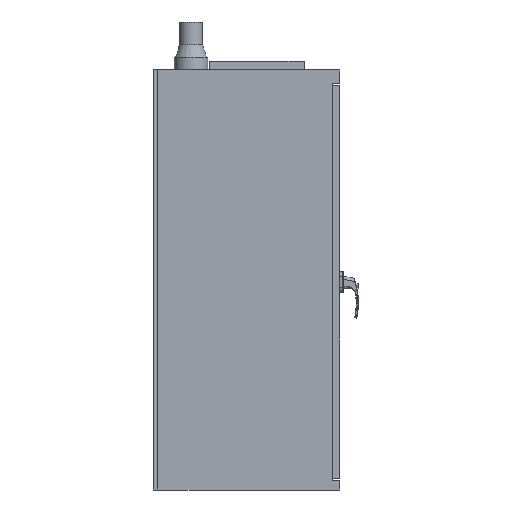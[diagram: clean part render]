
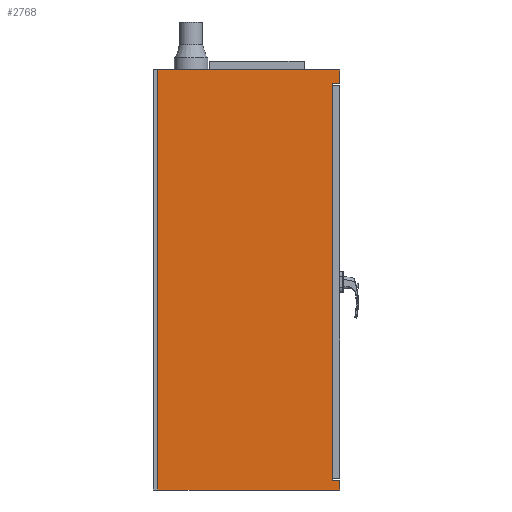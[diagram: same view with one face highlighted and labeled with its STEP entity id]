
A CAD part, left-side view. The second image highlights one B-rep face of the part: STEP entity #2768.
In plain terms, the highlighted planar face has unit normal (-1, 0, 0).
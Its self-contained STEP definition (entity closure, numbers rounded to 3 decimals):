
#104=PLANE('',#2930);
#542=ORIENTED_EDGE('',*,*,#900,.F.);
#543=ORIENTED_EDGE('',*,*,#924,.T.);
#544=ORIENTED_EDGE('',*,*,#910,.T.);
#545=ORIENTED_EDGE('',*,*,#925,.F.);
#546=ORIENTED_EDGE('',*,*,#926,.F.);
#547=ORIENTED_EDGE('',*,*,#927,.T.);
#548=ORIENTED_EDGE('',*,*,#928,.T.);
#549=ORIENTED_EDGE('',*,*,#929,.F.);
#900=EDGE_CURVE('',#1116,#1117,#1278,.T.);
#910=EDGE_CURVE('',#1126,#1125,#1288,.T.);
#924=EDGE_CURVE('',#1116,#1126,#1302,.T.);
#925=EDGE_CURVE('',#1135,#1125,#1303,.T.);
#926=EDGE_CURVE('',#1136,#1135,#1304,.T.);
#927=EDGE_CURVE('',#1136,#1137,#1305,.T.);
#928=EDGE_CURVE('',#1137,#1138,#1306,.T.);
#929=EDGE_CURVE('',#1117,#1138,#1307,.T.);
#1116=VERTEX_POINT('',#4219);
#1117=VERTEX_POINT('',#4221);
#1125=VERTEX_POINT('',#4239);
#1126=VERTEX_POINT('',#4241);
#1135=VERTEX_POINT('',#4269);
#1136=VERTEX_POINT('',#4271);
#1137=VERTEX_POINT('',#4273);
#1138=VERTEX_POINT('',#4275);
#1278=LINE('',#4220,#1479);
#1288=LINE('',#4240,#1489);
#1302=LINE('',#4267,#1503);
#1303=LINE('',#4268,#1504);
#1304=LINE('',#4270,#1505);
#1305=LINE('',#4272,#1506);
#1306=LINE('',#4274,#1507);
#1307=LINE('',#4276,#1508);
#1479=VECTOR('',#3313,1000.);
#1489=VECTOR('',#3325,1000.);
#1503=VECTOR('',#3347,1000.);
#1504=VECTOR('',#3348,1000.);
#1505=VECTOR('',#3349,1000.);
#1506=VECTOR('',#3350,1000.);
#1507=VECTOR('',#3351,1000.);
#1508=VECTOR('',#3352,1000.);
#1665=EDGE_LOOP('',(#542,#543,#544,#545,#546,#547,#548,#549));
#1806=FACE_BOUND('',#1665,.T.);
#2768=ADVANCED_FACE('',(#1806),#104,.F.);
#2930=AXIS2_PLACEMENT_3D('',#4266,#3345,#3346);
#3313=DIRECTION('',(0.,-1.,0.));
#3325=DIRECTION('',(0.,-1.,0.));
#3345=DIRECTION('',(1.,0.,0.));
#3346=DIRECTION('',(0.,0.,-1.));
#3347=DIRECTION('',(0.,0.,-1.));
#3348=DIRECTION('',(0.,0.,-1.));
#3349=DIRECTION('',(0.,-1.,0.));
#3350=DIRECTION('',(0.,0.,1.));
#3351=DIRECTION('',(0.,-1.,0.));
#3352=DIRECTION('',(0.,0.,-1.));
#4219=CARTESIAN_POINT('',(0.,595.75,1375.));
#4220=CARTESIAN_POINT('',(0.,610.,1375.));
#4221=CARTESIAN_POINT('',(0.,0.,1375.));
#4239=CARTESIAN_POINT('',(0.,0.,0.));
#4240=CARTESIAN_POINT('',(0.,610.,0.));
#4241=CARTESIAN_POINT('',(0.,595.75,0.));
#4266=CARTESIAN_POINT('',(0.,610.,2030.));
#4267=CARTESIAN_POINT('',(0.,595.75,2030.));
#4268=CARTESIAN_POINT('',(0.,0.,2030.));
#4269=CARTESIAN_POINT('',(0.,0.,32.));
#4270=CARTESIAN_POINT('',(0.,25.,32.));
#4271=CARTESIAN_POINT('',(0.,25.,32.));
#4272=CARTESIAN_POINT('',(0.,25.,38.3));
#4273=CARTESIAN_POINT('',(0.,25.,1330.));
#4274=CARTESIAN_POINT('',(0.,25.,1330.));
#4275=CARTESIAN_POINT('',(0.,0.,1330.));
#4276=CARTESIAN_POINT('',(0.,0.,1375.));
